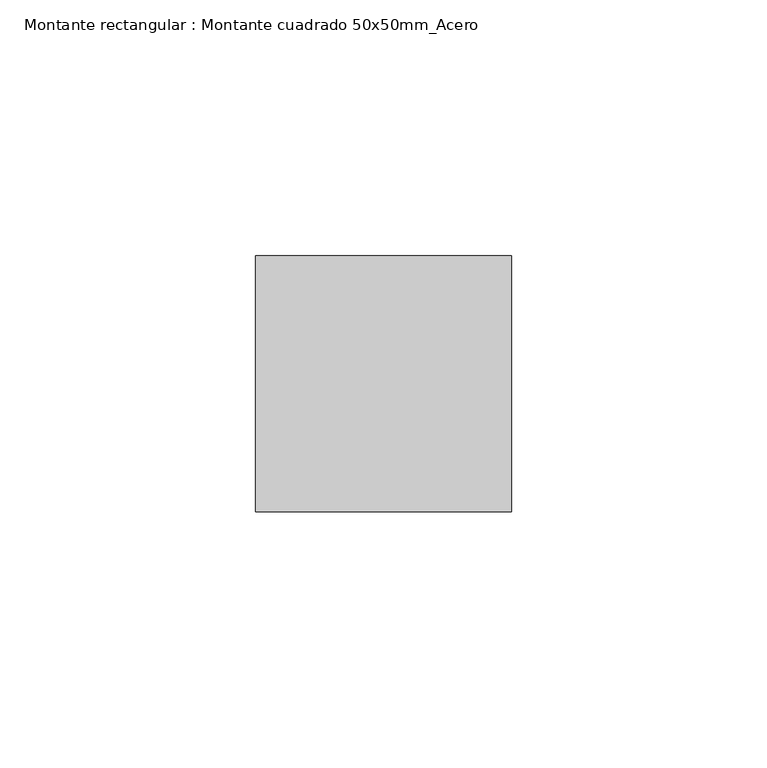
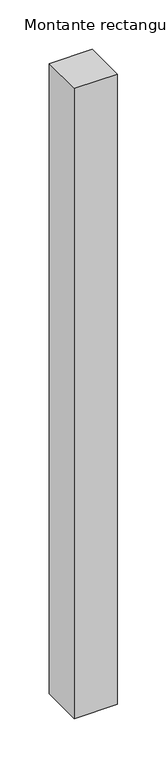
"""IFC4 building model written with IfcOpenShell, lengths in millimetres: member geometry, Montante rectangular : Montante cuadrado 50x50mm_Acero."""

from ifc_helpers import new_model, si_unit, frame, origin, place, context, project, spatial, polyline, outline, extrude, source, transform, mapped, element, save


def montante_rectangular_montante_cuadrado_50x50mm_acero_461c3306(model_context):
    return source(origin(), model_context, "Body", "SweptSolid", [
        extrude(outline(polyline([(0.0, 0.0), (0.0, -50.0), (-50.0, -50.0), (-50.0, 0.0), (0.0, 0.0)])), frame((0.0, 0.0, -777.7385934), z_axis=(0.0, 0.0, 1.0), x_axis=(1.0, 0.0, 0.0)), (0.0, 0.0, 1.0), 777.7385934),
    ])


if __name__ == "__main__":
    model = new_model("IFC4")
    model_context = context("Model", 3, world=origin())
    ifc_project = project(units=[si_unit("LENGTHUNIT", "METRE", prefix="MILLI")], contexts=[model_context])
    site = spatial("IfcSite", under=ifc_project)
    building = spatial("IfcBuilding", under=site)
    placement = place(None, origin())
    montante_rectangular_montante_cuadrado_50x50mm_acero_shape = montante_rectangular_montante_cuadrado_50x50mm_acero_461c3306(model_context)
    element("IfcMember", 1, ObjectType="Montante rectangular : Montante cuadrado 50x50mm_Acero", at=placement, inside=building, context=model_context, shape_type="MappedRepresentation", body=[
        mapped(montante_rectangular_montante_cuadrado_50x50mm_acero_shape, transform((0.0, 0.0, 0.0), x_axis=(1.0, 0.0, 0.0), y_axis=(0.0, 1.0, 0.0), z_axis=(0.0, 0.0, 1.0))),
    ])
    save(model, "model.ifc")
